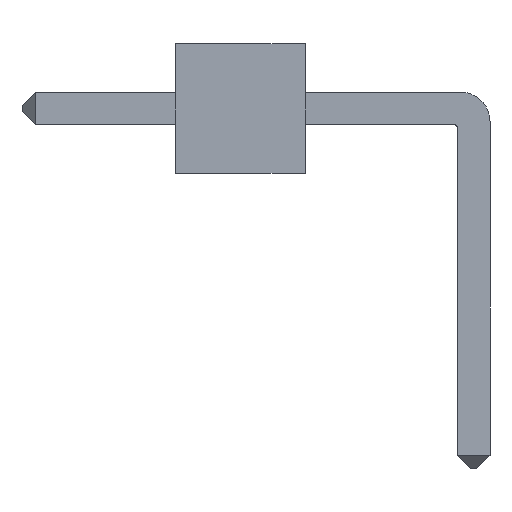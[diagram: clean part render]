
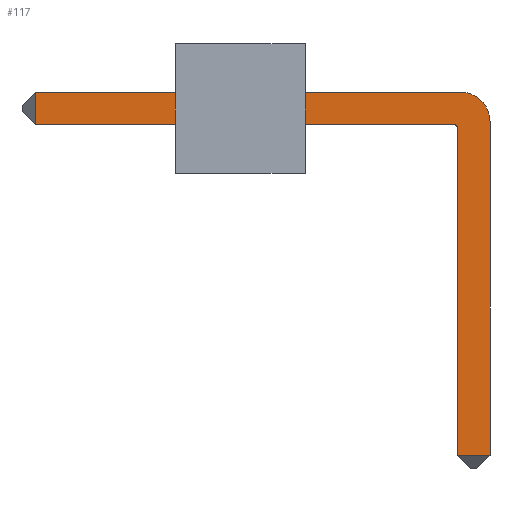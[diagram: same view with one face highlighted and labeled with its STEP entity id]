
A CAD part, left-side view. The second image highlights one B-rep face of the part: STEP entity #117.
In plain terms, the highlighted planar face has unit normal (-1, 0, 0).
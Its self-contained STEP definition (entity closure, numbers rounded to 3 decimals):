
#34 = VERTEX_POINT ( 'NONE', #3149 ) ;
#42 = DIRECTION ( 'NONE',  ( -1., 0., 0. ) ) ;
#88 = VERTEX_POINT ( 'NONE', #989 ) ;
#94 = EDGE_CURVE ( 'NONE', #34, #1496, #1038, .T. ) ;
#101 = EDGE_CURVE ( 'NONE', #2988, #34, #1318, .T. ) ;
#117 = ADVANCED_FACE ( 'NONE', ( #2863 ), #2566, .T. ) ;
#146 = ORIENTED_EDGE ( 'NONE', *, *, #101, .T. ) ;
#254 = VECTOR ( 'NONE', #3324, 1000. ) ;
#262 = EDGE_CURVE ( 'NONE', #88, #1136, #3238, .T. ) ;
#318 = EDGE_CURVE ( 'NONE', #2988, #3498, #2395, .T. ) ;
#437 = EDGE_CURVE ( 'NONE', #1496, #1751, #1022, .T. ) ;
#441 = CARTESIAN_POINT ( 'NONE',  ( -5.367, 5.456, 10.945 ) ) ;
#561 = ORIENTED_EDGE ( 'NONE', *, *, #262, .F. ) ;
#663 = DIRECTION ( 'NONE',  ( 0., 0., 1. ) ) ;
#679 = CARTESIAN_POINT ( 'NONE',  ( -5.367, -4.183, 3.665 ) ) ;
#836 = CARTESIAN_POINT ( 'NONE',  ( -5.367, -4.183, 10.945 ) ) ;
#989 = CARTESIAN_POINT ( 'NONE',  ( -5.367, -3.424, 10.945 ) ) ;
#1008 = DIRECTION ( 'NONE',  ( -1., 0., 0. ) ) ;
#1022 = LINE ( 'NONE', #2879, #1101 ) ;
#1028 = LINE ( 'NONE', #441, #1509 ) ;
#1038 = CIRCLE ( 'NONE', #2410, 0.621 ) ;
#1101 = VECTOR ( 'NONE', #1330, 1000. ) ;
#1136 = VERTEX_POINT ( 'NONE', #1238 ) ;
#1145 = DIRECTION ( 'NONE',  ( 0., 0., 1. ) ) ;
#1164 = DIRECTION ( 'NONE',  ( 0., 1., 0. ) ) ;
#1233 = VECTOR ( 'NONE', #2805, 1000. ) ;
#1238 = CARTESIAN_POINT ( 'NONE',  ( -5.367, 5.456, 10.945 ) ) ;
#1318 = LINE ( 'NONE', #679, #1233 ) ;
#1330 = DIRECTION ( 'NONE',  ( 0., 1., 0. ) ) ;
#1496 = VERTEX_POINT ( 'NONE', #1799 ) ;
#1503 = EDGE_CURVE ( 'NONE', #3498, #2136, #3961, .T. ) ;
#1509 = VECTOR ( 'NONE', #1679, 1000. ) ;
#1568 = EDGE_LOOP ( 'NONE', ( #561, #2371, #3578, #2208, #146, #3351, #3173, #3369 ) ) ;
#1679 = DIRECTION ( 'NONE',  ( 0., 0., 1. ) ) ;
#1751 = VERTEX_POINT ( 'NONE', #2050 ) ;
#1799 = CARTESIAN_POINT ( 'NONE',  ( -5.367, -3.562, 11.635 ) ) ;
#1888 = VECTOR ( 'NONE', #2762, 1000. ) ;
#2050 = CARTESIAN_POINT ( 'NONE',  ( -5.367, 5.456, 11.635 ) ) ;
#2136 = VERTEX_POINT ( 'NONE', #2897 ) ;
#2208 = ORIENTED_EDGE ( 'NONE', *, *, #318, .F. ) ;
#2371 = ORIENTED_EDGE ( 'NONE', *, *, #2699, .T. ) ;
#2395 = LINE ( 'NONE', #3630, #2542 ) ;
#2410 = AXIS2_PLACEMENT_3D ( 'NONE', #2545, #42, #663 ) ;
#2444 = DIRECTION ( 'NONE',  ( 1., 0., 0. ) ) ;
#2542 = VECTOR ( 'NONE', #1164, 1000. ) ;
#2545 = CARTESIAN_POINT ( 'NONE',  ( -5.367, -3.562, 11.014 ) ) ;
#2566 = PLANE ( 'NONE',  #3052 ) ;
#2612 = CIRCLE ( 'NONE', #3576, 0.069 ) ;
#2645 = CARTESIAN_POINT ( 'NONE',  ( -5.367, -3.493, 3.941 ) ) ;
#2699 = EDGE_CURVE ( 'NONE', #88, #2136, #2612, .T. ) ;
#2762 = DIRECTION ( 'NONE',  ( 0., 0., 1. ) ) ;
#2805 = DIRECTION ( 'NONE',  ( 0., 0., 1. ) ) ;
#2863 = FACE_OUTER_BOUND ( 'NONE', #1568, .T. ) ;
#2879 = CARTESIAN_POINT ( 'NONE',  ( -5.367, -4.183, 11.635 ) ) ;
#2897 = CARTESIAN_POINT ( 'NONE',  ( -5.367, -3.493, 10.876 ) ) ;
#2988 = VERTEX_POINT ( 'NONE', #3425 ) ;
#3052 = AXIS2_PLACEMENT_3D ( 'NONE', #3811, #1008, #3208 ) ;
#3149 = CARTESIAN_POINT ( 'NONE',  ( -5.367, -4.183, 11.014 ) ) ;
#3173 = ORIENTED_EDGE ( 'NONE', *, *, #437, .T. ) ;
#3208 = DIRECTION ( 'NONE',  ( 0., 0., 1. ) ) ;
#3238 = LINE ( 'NONE', #836, #254 ) ;
#3324 = DIRECTION ( 'NONE',  ( 0., 1., 0. ) ) ;
#3351 = ORIENTED_EDGE ( 'NONE', *, *, #94, .T. ) ;
#3369 = ORIENTED_EDGE ( 'NONE', *, *, #3975, .F. ) ;
#3425 = CARTESIAN_POINT ( 'NONE',  ( -5.367, -4.183, 3.941 ) ) ;
#3498 = VERTEX_POINT ( 'NONE', #2645 ) ;
#3576 = AXIS2_PLACEMENT_3D ( 'NONE', #3991, #2444, #1145 ) ;
#3578 = ORIENTED_EDGE ( 'NONE', *, *, #1503, .F. ) ;
#3612 = CARTESIAN_POINT ( 'NONE',  ( -5.367, -3.493, 3.665 ) ) ;
#3630 = CARTESIAN_POINT ( 'NONE',  ( -5.367, -4.183, 3.941 ) ) ;
#3811 = CARTESIAN_POINT ( 'NONE',  ( -5.367, -1.144, 9.577 ) ) ;
#3961 = LINE ( 'NONE', #3612, #1888 ) ;
#3975 = EDGE_CURVE ( 'NONE', #1136, #1751, #1028, .T. ) ;
#3991 = CARTESIAN_POINT ( 'NONE',  ( -5.367, -3.424, 10.876 ) ) ;
